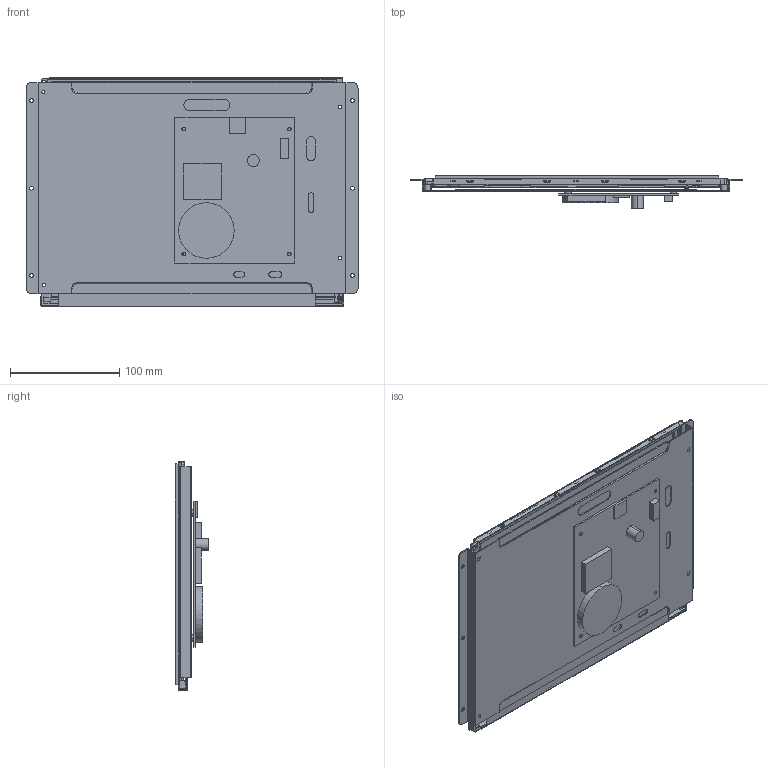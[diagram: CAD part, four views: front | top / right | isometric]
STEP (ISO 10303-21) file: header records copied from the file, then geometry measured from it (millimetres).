
FILE_DESCRIPTION((''),'2;1');
FILE_NAME('DMG80600C121-03WTC','2020-01-03T',('Administrator'),(''),'PRO/ENGINEER BY PARAMETRIC TECHNOLOGY CORPORATION, 2014320','PRO/ENGINEER BY PARAMETRIC TECHNOLOGY CORPORATION, 2014320','');
FILE_SCHEMA(('CONFIG_CONTROL_DESIGN','SHAPE_APPEARANCE_LAYERS_GROUPS'));
Length unit declared in the file: millimetre
Products named in the file (1): DMG80600C121-03WTC
Bounding box: 303.6 x 30.33 x 209.1 mm (x, y, z)
Volume: 264346.2 mm3; surface area: 337832 mm2
Topology: 12 solids, 12 shells, 1253 faces, 3405 edges, 2185 vertices
Faces by surface type: plane 821, cylinder 341, torus 54, bspline 26, sphere 10, extrusion 1
Entity records: 39835 total; most frequent: CARTESIAN_POINT 7525, ORIENTED_EDGE 6790, DIRECTION 6586, EDGE_CURVE 3395, VECTOR 2558, LINE 2557, VERTEX_POINT 2185, AXIS2_PLACEMENT_3D 2014
